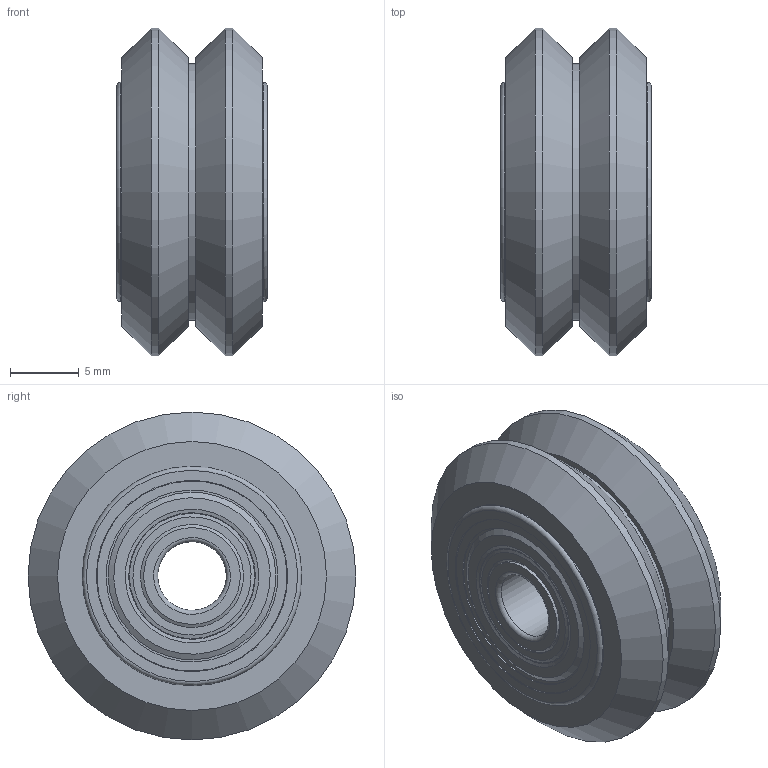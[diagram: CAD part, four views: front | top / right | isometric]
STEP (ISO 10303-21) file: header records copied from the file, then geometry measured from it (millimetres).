
FILE_DESCRIPTION(('FreeCAD Model'),'2;1');
FILE_NAME('Open CASCADE Shape Model','2021-05-03T16:23:01',('Author'),( ''),'Open CASCADE STEP processor 7.5','FreeCAD','Unknown');
FILE_SCHEMA(('AUTOMOTIVE_DESIGN { 1 0 10303 214 1 1 1 1 }'));
Length unit declared in the file: millimetre
Products named in the file (4): Delrin V Wheel001; Delrin V Wheel; snr_625zz_1; snr_625zz_002
Assembly tree (3 placements, depth 2):
  Delrin V Wheel001
    Delrin V Wheel
    snr_625zz_1
    snr_625zz_002
Bounding box: 11 x 23.9 x 23.9 mm (x, y, z)
Volume: 2887.1 mm3; surface area: 5070.6 mm2
Topology: 17 solids, 17 shells, 168 faces, 734 edges, 1784 vertices
Faces by surface type: plane 58, cone 36, cylinder 30, torus 28, sphere 16
Full cylindrical faces by diameter (mm): 5 x2, 7.05 x4, 7.507 x4, 9.54 x4, 11.46 x4, 12.517 x4, 13.9 x1, 16 x4, 18.75 x1, 23.9 x2
Entity records: 15441 total; most frequent: CARTESIAN_POINT 6130, DIRECTION 1562, AXIS2_PLACEMENT_3D 572, ORIENTED_EDGE 524, PCURVE 524, DEFINITIONAL_REPRESENTATION 524, GEOMETRIC_CURVE_SET 474, TRIMMED_CURVE 472
